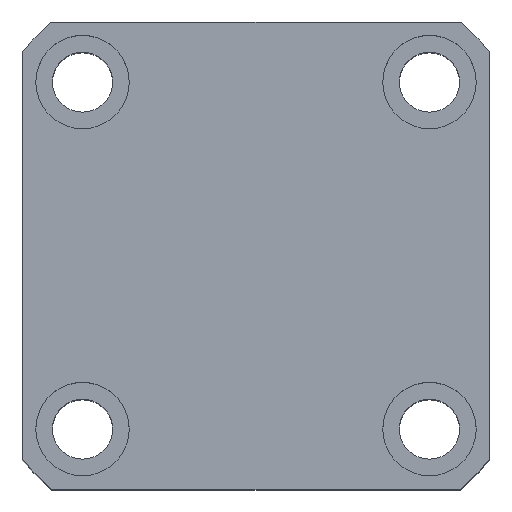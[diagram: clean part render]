
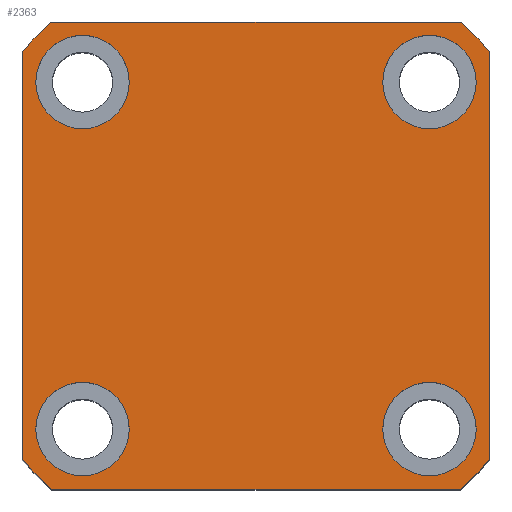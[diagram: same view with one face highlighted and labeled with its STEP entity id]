
A CAD part, top view. The second image highlights one B-rep face of the part: STEP entity #2363.
In plain terms, the highlighted planar face has unit normal (0, 0, 1).
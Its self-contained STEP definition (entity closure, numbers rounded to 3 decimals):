
#2 = EDGE_CURVE ( 'NONE', #6448, #1331, #1668, .T. ) ;
#105 = CARTESIAN_POINT ( 'NONE',  ( -35., 35., 80. ) ) ;
#143 = DIRECTION ( 'NONE',  ( -1., 0., 0. ) ) ;
#173 = PLANE ( 'NONE',  #2861 ) ;
#245 = DIRECTION ( 'NONE',  ( 0., 0., 1. ) ) ;
#313 = EDGE_CURVE ( 'NONE', #4127, #4985, #2754, .T. ) ;
#319 = ORIENTED_EDGE ( 'NONE', *, *, #6626, .T. ) ;
#391 = AXIS2_PLACEMENT_3D ( 'NONE', #4927, #245, #5697 ) ;
#393 = CARTESIAN_POINT ( 'NONE',  ( 35., 35., 80. ) ) ;
#711 = CIRCLE ( 'NONE', #2274, 46.5 ) ;
#722 = DIRECTION ( 'NONE',  ( 1., 0., 0. ) ) ;
#727 = VERTEX_POINT ( 'NONE', #9136 ) ;
#820 = VERTEX_POINT ( 'NONE', #4003 ) ;
#984 = CARTESIAN_POINT ( 'NONE',  ( 26., -26., 80. ) ) ;
#991 = CARTESIAN_POINT ( 'NONE',  ( -33., -26., 80. ) ) ;
#1046 = CARTESIAN_POINT ( 'NONE',  ( 26., -26., 80. ) ) ;
#1179 = VERTEX_POINT ( 'NONE', #3894 ) ;
#1305 = ORIENTED_EDGE ( 'NONE', *, *, #2, .F. ) ;
#1331 = VERTEX_POINT ( 'NONE', #3771 ) ;
#1342 = FACE_BOUND ( 'NONE', #2670, .T. ) ;
#1346 = CARTESIAN_POINT ( 'NONE',  ( 35., -30.615, 80. ) ) ;
#1363 = AXIS2_PLACEMENT_3D ( 'NONE', #8446, #3812, #9201 ) ;
#1376 = DIRECTION ( 'NONE',  ( 0., 0., 1. ) ) ;
#1450 = ORIENTED_EDGE ( 'NONE', *, *, #8149, .T. ) ;
#1598 = CIRCLE ( 'NONE', #4307, 7. ) ;
#1668 = CIRCLE ( 'NONE', #6951, 7. ) ;
#1771 = DIRECTION ( 'NONE',  ( 0., 0., 1. ) ) ;
#1787 = VERTEX_POINT ( 'NONE', #1346 ) ;
#1838 = DIRECTION ( 'NONE',  ( 1., 0., 0. ) ) ;
#1882 = DIRECTION ( 'NONE',  ( 0., 1., 0. ) ) ;
#2037 = EDGE_LOOP ( 'NONE', ( #8492, #4626 ) ) ;
#2044 = ORIENTED_EDGE ( 'NONE', *, *, #8063, .F. ) ;
#2139 = EDGE_CURVE ( 'NONE', #9050, #6534, #4170, .T. ) ;
#2205 = CARTESIAN_POINT ( 'NONE',  ( -26., 26., 80. ) ) ;
#2274 = AXIS2_PLACEMENT_3D ( 'NONE', #3249, #8671, #4049 ) ;
#2278 = ORIENTED_EDGE ( 'NONE', *, *, #5561, .F. ) ;
#2331 = VECTOR ( 'NONE', #143, 1000. ) ;
#2363 = ADVANCED_FACE ( 'NONE', ( #1342, #5525, #9591, #3427, #9350 ), #173, .T. ) ;
#2439 = CARTESIAN_POINT ( 'NONE',  ( -35., 35., 80. ) ) ;
#2533 = ORIENTED_EDGE ( 'NONE', *, *, #4815, .F. ) ;
#2605 = AXIS2_PLACEMENT_3D ( 'NONE', #2205, #3604, #2918 ) ;
#2670 = EDGE_LOOP ( 'NONE', ( #2278, #2533 ) ) ;
#2754 = CIRCLE ( 'NONE', #2605, 7. ) ;
#2782 = ORIENTED_EDGE ( 'NONE', *, *, #6435, .T. ) ;
#2861 = AXIS2_PLACEMENT_3D ( 'NONE', #3308, #4518, #7928 ) ;
#2890 = LINE ( 'NONE', #8846, #6774 ) ;
#2918 = DIRECTION ( 'NONE',  ( 1., 0., 0. ) ) ;
#2964 = CARTESIAN_POINT ( 'NONE',  ( -26., -26., 80. ) ) ;
#3037 = ORIENTED_EDGE ( 'NONE', *, *, #5906, .T. ) ;
#3249 = CARTESIAN_POINT ( 'NONE',  ( 0., 0., 80. ) ) ;
#3276 = ORIENTED_EDGE ( 'NONE', *, *, #2139, .T. ) ;
#3308 = CARTESIAN_POINT ( 'NONE',  ( 0., 0., 80. ) ) ;
#3316 = EDGE_CURVE ( 'NONE', #820, #9609, #4160, .T. ) ;
#3398 = CIRCLE ( 'NONE', #8401, 7. ) ;
#3427 = FACE_BOUND ( 'NONE', #2037, .T. ) ;
#3505 = EDGE_CURVE ( 'NONE', #1331, #6448, #1598, .T. ) ;
#3523 = CARTESIAN_POINT ( 'NONE',  ( 19., -26., 80. ) ) ;
#3527 = AXIS2_PLACEMENT_3D ( 'NONE', #9033, #4424, #9802 ) ;
#3540 = VECTOR ( 'NONE', #7872, 1000. ) ;
#3598 = CARTESIAN_POINT ( 'NONE',  ( 0., 0., 80. ) ) ;
#3604 = DIRECTION ( 'NONE',  ( 0., 0., 1. ) ) ;
#3749 = DIRECTION ( 'NONE',  ( 1., 0., 0. ) ) ;
#3771 = CARTESIAN_POINT ( 'NONE',  ( 33., -26., 80. ) ) ;
#3812 = DIRECTION ( 'NONE',  ( 0., 0., 1. ) ) ;
#3894 = CARTESIAN_POINT ( 'NONE',  ( -19., -26., 80. ) ) ;
#3901 = VERTEX_POINT ( 'NONE', #991 ) ;
#4003 = CARTESIAN_POINT ( 'NONE',  ( 33., 26., 80. ) ) ;
#4023 = VERTEX_POINT ( 'NONE', #8861 ) ;
#4028 = CIRCLE ( 'NONE', #5806, 7. ) ;
#4049 = DIRECTION ( 'NONE',  ( 1., 0., 0. ) ) ;
#4127 = VERTEX_POINT ( 'NONE', #4373 ) ;
#4160 = CIRCLE ( 'NONE', #8128, 7. ) ;
#4170 = LINE ( 'NONE', #105, #2331 ) ;
#4307 = AXIS2_PLACEMENT_3D ( 'NONE', #1046, #6489, #1838 ) ;
#4373 = CARTESIAN_POINT ( 'NONE',  ( -33., 26., 80. ) ) ;
#4395 = DIRECTION ( 'NONE',  ( 1., 0., 0. ) ) ;
#4424 = DIRECTION ( 'NONE',  ( 0., 0., 1. ) ) ;
#4465 = ORIENTED_EDGE ( 'NONE', *, *, #7068, .T. ) ;
#4518 = DIRECTION ( 'NONE',  ( 0., 0., 1. ) ) ;
#4626 = ORIENTED_EDGE ( 'NONE', *, *, #313, .F. ) ;
#4668 = CARTESIAN_POINT ( 'NONE',  ( 26., 26., 80. ) ) ;
#4815 = EDGE_CURVE ( 'NONE', #3901, #1179, #4028, .T. ) ;
#4844 = DIRECTION ( 'NONE',  ( 1., 0., 0. ) ) ;
#4876 = CIRCLE ( 'NONE', #391, 7. ) ;
#4927 = CARTESIAN_POINT ( 'NONE',  ( -26., 26., 80. ) ) ;
#4985 = VERTEX_POINT ( 'NONE', #9243 ) ;
#5063 = EDGE_CURVE ( 'NONE', #4985, #4127, #4876, .T. ) ;
#5170 = AXIS2_PLACEMENT_3D ( 'NONE', #3598, #9006, #4395 ) ;
#5203 = ORIENTED_EDGE ( 'NONE', *, *, #7925, .T. ) ;
#5229 = VERTEX_POINT ( 'NONE', #8821 ) ;
#5268 = EDGE_LOOP ( 'NONE', ( #2782, #3037, #3276, #10048, #1450, #4465, #319, #5203 ) ) ;
#5403 = DIRECTION ( 'NONE',  ( 0., 0., 1. ) ) ;
#5450 = DIRECTION ( 'NONE',  ( 1., 0., 0. ) ) ;
#5525 = FACE_BOUND ( 'NONE', #8483, .T. ) ;
#5561 = EDGE_CURVE ( 'NONE', #1179, #3901, #3398, .T. ) ;
#5697 = DIRECTION ( 'NONE',  ( 1., 0., 0. ) ) ;
#5712 = LINE ( 'NONE', #393, #9549 ) ;
#5806 = AXIS2_PLACEMENT_3D ( 'NONE', #6042, #1376, #6814 ) ;
#5902 = CARTESIAN_POINT ( 'NONE',  ( -30.615, 35., 80. ) ) ;
#5906 = EDGE_CURVE ( 'NONE', #727, #9050, #6321, .T. ) ;
#5957 = VERTEX_POINT ( 'NONE', #6737 ) ;
#5978 = CARTESIAN_POINT ( 'NONE',  ( 30.615, 35., 80. ) ) ;
#6042 = CARTESIAN_POINT ( 'NONE',  ( -26., -26., 80. ) ) ;
#6240 = EDGE_CURVE ( 'NONE', #6534, #5957, #711, .T. ) ;
#6321 = CIRCLE ( 'NONE', #3527, 46.5 ) ;
#6343 = CIRCLE ( 'NONE', #5170, 46.5 ) ;
#6435 = EDGE_CURVE ( 'NONE', #1787, #727, #5712, .T. ) ;
#6448 = VERTEX_POINT ( 'NONE', #3523 ) ;
#6489 = DIRECTION ( 'NONE',  ( 0., 0., 1. ) ) ;
#6518 = CARTESIAN_POINT ( 'NONE',  ( -30.615, -35., 80. ) ) ;
#6534 = VERTEX_POINT ( 'NONE', #5902 ) ;
#6626 = EDGE_CURVE ( 'NONE', #8738, #4023, #2890, .T. ) ;
#6737 = CARTESIAN_POINT ( 'NONE',  ( -35., 30.615, 80. ) ) ;
#6774 = VECTOR ( 'NONE', #9612, 1000. ) ;
#6814 = DIRECTION ( 'NONE',  ( 1., 0., 0. ) ) ;
#6951 = AXIS2_PLACEMENT_3D ( 'NONE', #984, #1771, #4844 ) ;
#7068 = EDGE_CURVE ( 'NONE', #5229, #8738, #9186, .T. ) ;
#7218 = AXIS2_PLACEMENT_3D ( 'NONE', #4668, #10038, #5450 ) ;
#7762 = ORIENTED_EDGE ( 'NONE', *, *, #3316, .F. ) ;
#7872 = DIRECTION ( 'NONE',  ( 0., -1., 0. ) ) ;
#7925 = EDGE_CURVE ( 'NONE', #4023, #1787, #6343, .T. ) ;
#7928 = DIRECTION ( 'NONE',  ( 1., 0., 0. ) ) ;
#8063 = EDGE_CURVE ( 'NONE', #9609, #820, #8161, .T. ) ;
#8128 = AXIS2_PLACEMENT_3D ( 'NONE', #9986, #5403, #722 ) ;
#8149 = EDGE_CURVE ( 'NONE', #5957, #5229, #9454, .T. ) ;
#8161 = CIRCLE ( 'NONE', #7218, 7. ) ;
#8391 = DIRECTION ( 'NONE',  ( 0., 0., 1. ) ) ;
#8401 = AXIS2_PLACEMENT_3D ( 'NONE', #2964, #8391, #3749 ) ;
#8446 = CARTESIAN_POINT ( 'NONE',  ( 0., 0., 80. ) ) ;
#8483 = EDGE_LOOP ( 'NONE', ( #8949, #1305 ) ) ;
#8492 = ORIENTED_EDGE ( 'NONE', *, *, #5063, .F. ) ;
#8671 = DIRECTION ( 'NONE',  ( 0., 0., 1. ) ) ;
#8738 = VERTEX_POINT ( 'NONE', #6518 ) ;
#8821 = CARTESIAN_POINT ( 'NONE',  ( -35., -30.615, 80. ) ) ;
#8846 = CARTESIAN_POINT ( 'NONE',  ( -35., -35., 80. ) ) ;
#8861 = CARTESIAN_POINT ( 'NONE',  ( 30.615, -35., 80. ) ) ;
#8949 = ORIENTED_EDGE ( 'NONE', *, *, #3505, .F. ) ;
#9006 = DIRECTION ( 'NONE',  ( 0., 0., 1. ) ) ;
#9033 = CARTESIAN_POINT ( 'NONE',  ( 0., 0., 80. ) ) ;
#9050 = VERTEX_POINT ( 'NONE', #5978 ) ;
#9136 = CARTESIAN_POINT ( 'NONE',  ( 35., 30.615, 80. ) ) ;
#9186 = CIRCLE ( 'NONE', #1363, 46.5 ) ;
#9201 = DIRECTION ( 'NONE',  ( 1., 0., 0. ) ) ;
#9212 = EDGE_LOOP ( 'NONE', ( #7762, #2044 ) ) ;
#9243 = CARTESIAN_POINT ( 'NONE',  ( -19., 26., 80. ) ) ;
#9350 = FACE_OUTER_BOUND ( 'NONE', #5268, .T. ) ;
#9419 = CARTESIAN_POINT ( 'NONE',  ( 19., 26., 80. ) ) ;
#9454 = LINE ( 'NONE', #2439, #3540 ) ;
#9549 = VECTOR ( 'NONE', #1882, 1000. ) ;
#9591 = FACE_BOUND ( 'NONE', #9212, .T. ) ;
#9609 = VERTEX_POINT ( 'NONE', #9419 ) ;
#9612 = DIRECTION ( 'NONE',  ( 1., 0., 0. ) ) ;
#9802 = DIRECTION ( 'NONE',  ( 1., 0., 0. ) ) ;
#9986 = CARTESIAN_POINT ( 'NONE',  ( 26., 26., 80. ) ) ;
#10038 = DIRECTION ( 'NONE',  ( 0., 0., 1. ) ) ;
#10048 = ORIENTED_EDGE ( 'NONE', *, *, #6240, .T. ) ;
